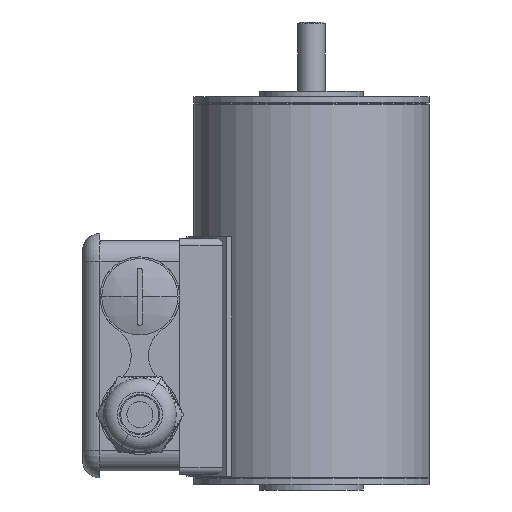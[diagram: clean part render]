
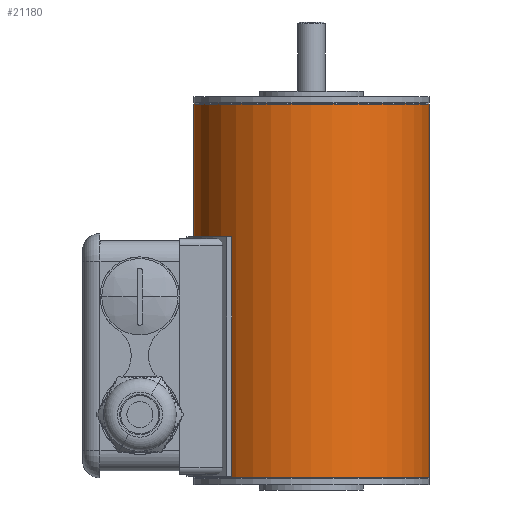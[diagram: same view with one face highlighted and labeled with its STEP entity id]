
A CAD part, front view. The second image highlights one B-rep face of the part: STEP entity #21180.
In plain terms, the highlighted cylindrical face has radius 34 mm (diameter 68 mm), a partial arc.
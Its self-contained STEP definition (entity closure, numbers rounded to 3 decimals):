
#9530 = DIRECTION ( 'NONE',  ( 0., 0., 1. ) ) ;
#9531 = VECTOR ( 'NONE', #9530, 1000. ) ;
#9533 = CARTESIAN_POINT ( 'NONE',  ( -34., 0., -23.7 ) ) ;
#9537 = CARTESIAN_POINT ( 'NONE',  ( 34., 0., 0. ) ) ;
#9751 = CARTESIAN_POINT ( 'NONE',  ( 34., 0., -23.7 ) ) ;
#9823 = LINE ( 'NONE', #9537, #9531 ) ;
#9830 = DIRECTION ( 'NONE',  ( 0., 0., 1. ) ) ;
#9831 = VECTOR ( 'NONE', #9830, 1000. ) ;
#9833 = CARTESIAN_POINT ( 'NONE',  ( -34., 0., 0. ) ) ;
#9834 = LINE ( 'NONE', #9833, #9831 ) ;
#9962 = CARTESIAN_POINT ( 'NONE',  ( -34., 0., -131.3 ) ) ;
#10230 = CARTESIAN_POINT ( 'NONE',  ( 34., 0., -131.3 ) ) ;
#10447 = DIRECTION ( 'NONE',  ( 1., 0., 0. ) ) ;
#10448 = DIRECTION ( 'NONE',  ( 0., 0., 1. ) ) ;
#10449 = CARTESIAN_POINT ( 'NONE',  ( 0., 0., 0. ) ) ;
#10454 = AXIS2_PLACEMENT_3D ( 'NONE', #10449, #10448, #10447 ) ;
#10471 = FACE_OUTER_BOUND ( 'NONE', #21340, .T. ) ;
#10476 = CYLINDRICAL_SURFACE ( 'NONE', #10454, 34. ) ;
#10478 = DIRECTION ( 'NONE',  ( 1., 0., 0. ) ) ;
#10479 = DIRECTION ( 'NONE',  ( 0., 0., 1. ) ) ;
#10480 = AXIS2_PLACEMENT_3D ( 'NONE', #10491, #10479, #10478 ) ;
#10481 = CIRCLE ( 'NONE', #10480, 34. ) ;
#10491 = CARTESIAN_POINT ( 'NONE',  ( 0., 0., -23.7 ) ) ;
#10817 = DIRECTION ( 'NONE',  ( 1., 0., 0. ) ) ;
#10818 = DIRECTION ( 'NONE',  ( 0., 0., 1. ) ) ;
#10819 = CARTESIAN_POINT ( 'NONE',  ( 0., 0., -131.3 ) ) ;
#10820 = AXIS2_PLACEMENT_3D ( 'NONE', #10819, #10818, #10817 ) ;
#10864 = CIRCLE ( 'NONE', #10820, 34. ) ;
#20837 = VERTEX_POINT ( 'NONE', #9751 ) ;
#20839 = EDGE_CURVE ( 'NONE', #20853, #20846, #9834, .T. ) ;
#20844 = EDGE_CURVE ( 'NONE', #21008, #20837, #9823, .T. ) ;
#20846 = VERTEX_POINT ( 'NONE', #9533 ) ;
#20853 = VERTEX_POINT ( 'NONE', #9962 ) ;
#21008 = VERTEX_POINT ( 'NONE', #10230 ) ;
#21178 = EDGE_CURVE ( 'NONE', #20846, #20837, #10481, .T. ) ;
#21180 = ADVANCED_FACE ( 'NONE', ( #10471 ), #10476, .T. ) ;
#21182 = ORIENTED_EDGE ( 'NONE', *, *, #21355, .T. ) ;
#21183 = ORIENTED_EDGE ( 'NONE', *, *, #21178, .F. ) ;
#21184 = ORIENTED_EDGE ( 'NONE', *, *, #20844, .T. ) ;
#21188 = ORIENTED_EDGE ( 'NONE', *, *, #20839, .F. ) ;
#21340 = EDGE_LOOP ( 'NONE', ( #21188, #21182, #21184, #21183 ) ) ;
#21355 = EDGE_CURVE ( 'NONE', #20853, #21008, #10864, .T. ) ;
